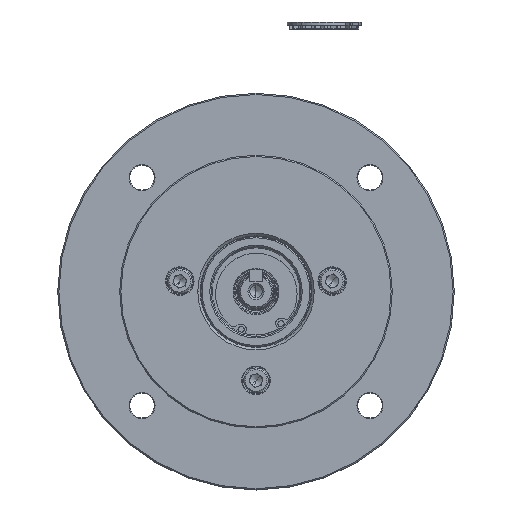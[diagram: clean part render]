
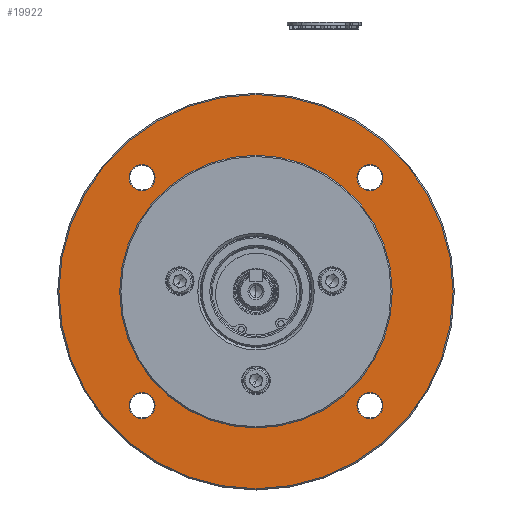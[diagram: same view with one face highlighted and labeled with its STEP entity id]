
A CAD part, top view. The second image highlights one B-rep face of the part: STEP entity #19922.
In plain terms, the highlighted planar face has unit normal (0, 0, 1).
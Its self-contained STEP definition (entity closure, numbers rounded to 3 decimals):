
#802 = AXIS2_PLACEMENT_3D ( 'NONE', #26169, #13313, #51680 ) ;
#1633 = CARTESIAN_POINT ( 'NONE',  ( 45.962, -41.962, 39.325 ) ) ;
#1807 = EDGE_CURVE ( 'NONE', #43930, #6612, #54587, .T. ) ;
#1989 = CARTESIAN_POINT ( 'NONE',  ( -45.962, -41.962, 39.325 ) ) ;
#3237 = EDGE_LOOP ( 'NONE', ( #35096, #20782 ) ) ;
#3399 = ORIENTED_EDGE ( 'NONE', *, *, #44687, .T. ) ;
#3530 = EDGE_CURVE ( 'NONE', #7148, #26810, #21393, .T. ) ;
#4530 = EDGE_CURVE ( 'NONE', #38026, #23862, #49617, .T. ) ;
#4561 = CIRCLE ( 'NONE', #35936, 55. ) ;
#4576 = AXIS2_PLACEMENT_3D ( 'NONE', #24167, #11715, #37382 ) ;
#4836 = CARTESIAN_POINT ( 'NONE',  ( 51.212, 49.962, 39.325 ) ) ;
#6225 = AXIS2_PLACEMENT_3D ( 'NONE', #50199, #23953, #54421 ) ;
#6480 = DIRECTION ( 'NONE',  ( 0., 0., -1. ) ) ;
#6612 = VERTEX_POINT ( 'NONE', #23431 ) ;
#7148 = VERTEX_POINT ( 'NONE', #18077 ) ;
#8803 = EDGE_CURVE ( 'NONE', #55330, #14852, #10243, .T. ) ;
#10243 = CIRCLE ( 'NONE', #14718, 5.25 ) ;
#10816 = CARTESIAN_POINT ( 'NONE',  ( 0., 4., 39.325 ) ) ;
#10919 = EDGE_LOOP ( 'NONE', ( #19426, #49319 ) ) ;
#11184 = DIRECTION ( 'NONE',  ( -1., 0., 0. ) ) ;
#11627 = CIRCLE ( 'NONE', #42145, 79.5 ) ;
#11715 = DIRECTION ( 'NONE',  ( 0., 0., -1. ) ) ;
#11744 = CARTESIAN_POINT ( 'NONE',  ( 45.962, 49.962, 39.325 ) ) ;
#11983 = DIRECTION ( 'NONE',  ( -1., 0., 0. ) ) ;
#13238 = DIRECTION ( 'NONE',  ( -1., 0., 0. ) ) ;
#13313 = DIRECTION ( 'NONE',  ( 0., 0., -1. ) ) ;
#14258 = DIRECTION ( 'NONE',  ( 0., 0., -1. ) ) ;
#14533 = ORIENTED_EDGE ( 'NONE', *, *, #3530, .T. ) ;
#14718 = AXIS2_PLACEMENT_3D ( 'NONE', #38162, #47360, #25318 ) ;
#14852 = VERTEX_POINT ( 'NONE', #47881 ) ;
#15641 = DIRECTION ( 'NONE',  ( 0., 0., -1. ) ) ;
#15888 = ORIENTED_EDGE ( 'NONE', *, *, #55003, .F. ) ;
#16248 = DIRECTION ( 'NONE',  ( 1., 0., 0. ) ) ;
#17320 = EDGE_CURVE ( 'NONE', #50877, #35626, #40706, .T. ) ;
#17870 = FACE_BOUND ( 'NONE', #29620, .T. ) ;
#18077 = CARTESIAN_POINT ( 'NONE',  ( -55., 4., 39.325 ) ) ;
#18483 = DIRECTION ( 'NONE',  ( 1., 0., 0. ) ) ;
#19426 = ORIENTED_EDGE ( 'NONE', *, *, #21750, .T. ) ;
#19670 = DIRECTION ( 'NONE',  ( 0., 0., -1. ) ) ;
#19896 = CARTESIAN_POINT ( 'NONE',  ( -79.5, 4., 39.325 ) ) ;
#19922 = ADVANCED_FACE ( 'NONE', ( #29325, #52519, #17870, #23847, #25210, #44957 ), #48724, .T. ) ;
#20154 = EDGE_CURVE ( 'NONE', #38025, #51164, #38727, .T. ) ;
#20250 = AXIS2_PLACEMENT_3D ( 'NONE', #26276, #30631, #13238 ) ;
#20782 = ORIENTED_EDGE ( 'NONE', *, *, #1807, .T. ) ;
#21393 = CIRCLE ( 'NONE', #20250, 55. ) ;
#21750 = EDGE_CURVE ( 'NONE', #51164, #38025, #26772, .T. ) ;
#23431 = CARTESIAN_POINT ( 'NONE',  ( -40.712, -41.962, 39.325 ) ) ;
#23847 = FACE_BOUND ( 'NONE', #10919, .T. ) ;
#23862 = VERTEX_POINT ( 'NONE', #4836 ) ;
#23953 = DIRECTION ( 'NONE',  ( 0., 0., -1. ) ) ;
#24009 = DIRECTION ( 'NONE',  ( 0., 0., -1. ) ) ;
#24167 = CARTESIAN_POINT ( 'NONE',  ( -45.962, 49.962, 39.325 ) ) ;
#24423 = AXIS2_PLACEMENT_3D ( 'NONE', #1989, #6480, #49186 ) ;
#24816 = CARTESIAN_POINT ( 'NONE',  ( 0., 4., 39.325 ) ) ;
#25098 = EDGE_CURVE ( 'NONE', #6612, #43930, #43700, .T. ) ;
#25210 = FACE_BOUND ( 'NONE', #55837, .T. ) ;
#25318 = DIRECTION ( 'NONE',  ( 1., 0., 0. ) ) ;
#25954 = AXIS2_PLACEMENT_3D ( 'NONE', #24816, #37837, #11983 ) ;
#26169 = CARTESIAN_POINT ( 'NONE',  ( 45.962, 49.962, 39.325 ) ) ;
#26276 = CARTESIAN_POINT ( 'NONE',  ( 0., 4., 39.325 ) ) ;
#26399 = EDGE_CURVE ( 'NONE', #26810, #7148, #4561, .T. ) ;
#26432 = AXIS2_PLACEMENT_3D ( 'NONE', #49267, #19670, #54236 ) ;
#26772 = CIRCLE ( 'NONE', #4576, 5.25 ) ;
#26810 = VERTEX_POINT ( 'NONE', #45019 ) ;
#29171 = CARTESIAN_POINT ( 'NONE',  ( 40.712, -41.962, 39.325 ) ) ;
#29253 = CARTESIAN_POINT ( 'NONE',  ( 79.5, 4., 39.325 ) ) ;
#29325 = FACE_BOUND ( 'NONE', #46619, .T. ) ;
#29620 = EDGE_LOOP ( 'NONE', ( #53798, #53111 ) ) ;
#30177 = AXIS2_PLACEMENT_3D ( 'NONE', #31028, #39740, #43961 ) ;
#30631 = DIRECTION ( 'NONE',  ( 0., 0., -1. ) ) ;
#31028 = CARTESIAN_POINT ( 'NONE',  ( 0., 59., 39.325 ) ) ;
#35096 = ORIENTED_EDGE ( 'NONE', *, *, #25098, .T. ) ;
#35300 = CARTESIAN_POINT ( 'NONE',  ( -40.712, 49.962, 39.325 ) ) ;
#35626 = VERTEX_POINT ( 'NONE', #19896 ) ;
#35936 = AXIS2_PLACEMENT_3D ( 'NONE', #41998, #15641, #50398 ) ;
#37382 = DIRECTION ( 'NONE',  ( 1., 0., 0. ) ) ;
#37837 = DIRECTION ( 'NONE',  ( 0., 0., -1. ) ) ;
#38025 = VERTEX_POINT ( 'NONE', #49971 ) ;
#38026 = VERTEX_POINT ( 'NONE', #54379 ) ;
#38162 = CARTESIAN_POINT ( 'NONE',  ( 45.962, -41.962, 39.325 ) ) ;
#38727 = CIRCLE ( 'NONE', #6225, 5.25 ) ;
#39740 = DIRECTION ( 'NONE',  ( 0., 0., 1. ) ) ;
#40706 = CIRCLE ( 'NONE', #25954, 79.5 ) ;
#41998 = CARTESIAN_POINT ( 'NONE',  ( 0., 4., 39.325 ) ) ;
#42052 = CARTESIAN_POINT ( 'NONE',  ( -51.212, -41.962, 39.325 ) ) ;
#42145 = AXIS2_PLACEMENT_3D ( 'NONE', #10816, #24009, #11184 ) ;
#42879 = CIRCLE ( 'NONE', #49162, 5.25 ) ;
#43700 = CIRCLE ( 'NONE', #26432, 5.25 ) ;
#43930 = VERTEX_POINT ( 'NONE', #42052 ) ;
#43961 = DIRECTION ( 'NONE',  ( 1., 0., 0. ) ) ;
#44623 = ORIENTED_EDGE ( 'NONE', *, *, #26399, .T. ) ;
#44687 = EDGE_CURVE ( 'NONE', #14852, #55330, #46225, .T. ) ;
#44957 = FACE_OUTER_BOUND ( 'NONE', #55508, .T. ) ;
#45019 = CARTESIAN_POINT ( 'NONE',  ( 55., 4., 39.325 ) ) ;
#46225 = CIRCLE ( 'NONE', #46701, 5.25 ) ;
#46619 = EDGE_LOOP ( 'NONE', ( #3399, #55653 ) ) ;
#46701 = AXIS2_PLACEMENT_3D ( 'NONE', #1633, #14258, #18483 ) ;
#47360 = DIRECTION ( 'NONE',  ( 0., 0., -1. ) ) ;
#47881 = CARTESIAN_POINT ( 'NONE',  ( 51.212, -41.962, 39.325 ) ) ;
#48724 = PLANE ( 'NONE',  #30177 ) ;
#49162 = AXIS2_PLACEMENT_3D ( 'NONE', #11744, #51192, #16248 ) ;
#49186 = DIRECTION ( 'NONE',  ( 1., 0., 0. ) ) ;
#49267 = CARTESIAN_POINT ( 'NONE',  ( -45.962, -41.962, 39.325 ) ) ;
#49319 = ORIENTED_EDGE ( 'NONE', *, *, #20154, .T. ) ;
#49617 = CIRCLE ( 'NONE', #802, 5.25 ) ;
#49971 = CARTESIAN_POINT ( 'NONE',  ( -51.212, 49.962, 39.325 ) ) ;
#50199 = CARTESIAN_POINT ( 'NONE',  ( -45.962, 49.962, 39.325 ) ) ;
#50398 = DIRECTION ( 'NONE',  ( -1., 0., 0. ) ) ;
#50877 = VERTEX_POINT ( 'NONE', #29253 ) ;
#50976 = ORIENTED_EDGE ( 'NONE', *, *, #17320, .F. ) ;
#51164 = VERTEX_POINT ( 'NONE', #35300 ) ;
#51192 = DIRECTION ( 'NONE',  ( 0., 0., -1. ) ) ;
#51680 = DIRECTION ( 'NONE',  ( 1., 0., 0. ) ) ;
#52519 = FACE_BOUND ( 'NONE', #3237, .T. ) ;
#53111 = ORIENTED_EDGE ( 'NONE', *, *, #4530, .T. ) ;
#53798 = ORIENTED_EDGE ( 'NONE', *, *, #55850, .T. ) ;
#54236 = DIRECTION ( 'NONE',  ( 1., 0., 0. ) ) ;
#54379 = CARTESIAN_POINT ( 'NONE',  ( 40.712, 49.962, 39.325 ) ) ;
#54421 = DIRECTION ( 'NONE',  ( 1., 0., 0. ) ) ;
#54587 = CIRCLE ( 'NONE', #24423, 5.25 ) ;
#55003 = EDGE_CURVE ( 'NONE', #35626, #50877, #11627, .T. ) ;
#55330 = VERTEX_POINT ( 'NONE', #29171 ) ;
#55508 = EDGE_LOOP ( 'NONE', ( #15888, #50976 ) ) ;
#55653 = ORIENTED_EDGE ( 'NONE', *, *, #8803, .T. ) ;
#55837 = EDGE_LOOP ( 'NONE', ( #14533, #44623 ) ) ;
#55850 = EDGE_CURVE ( 'NONE', #23862, #38026, #42879, .T. ) ;
